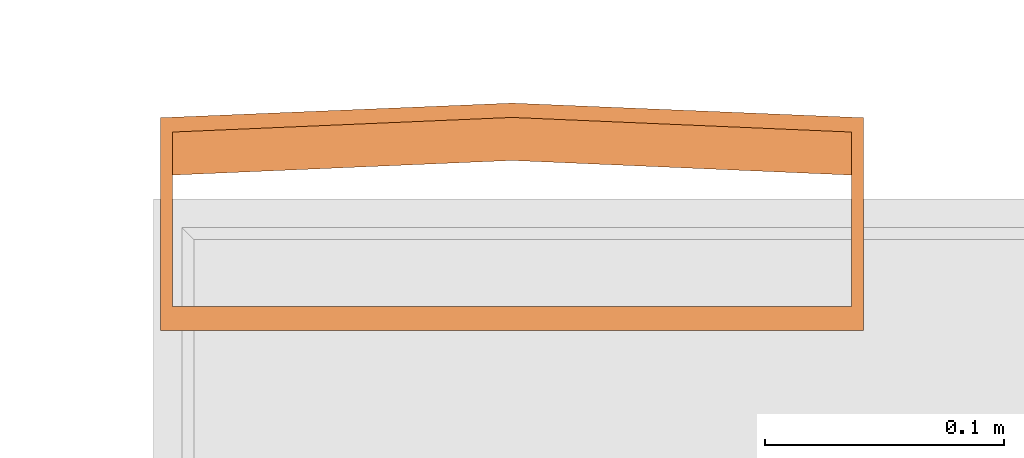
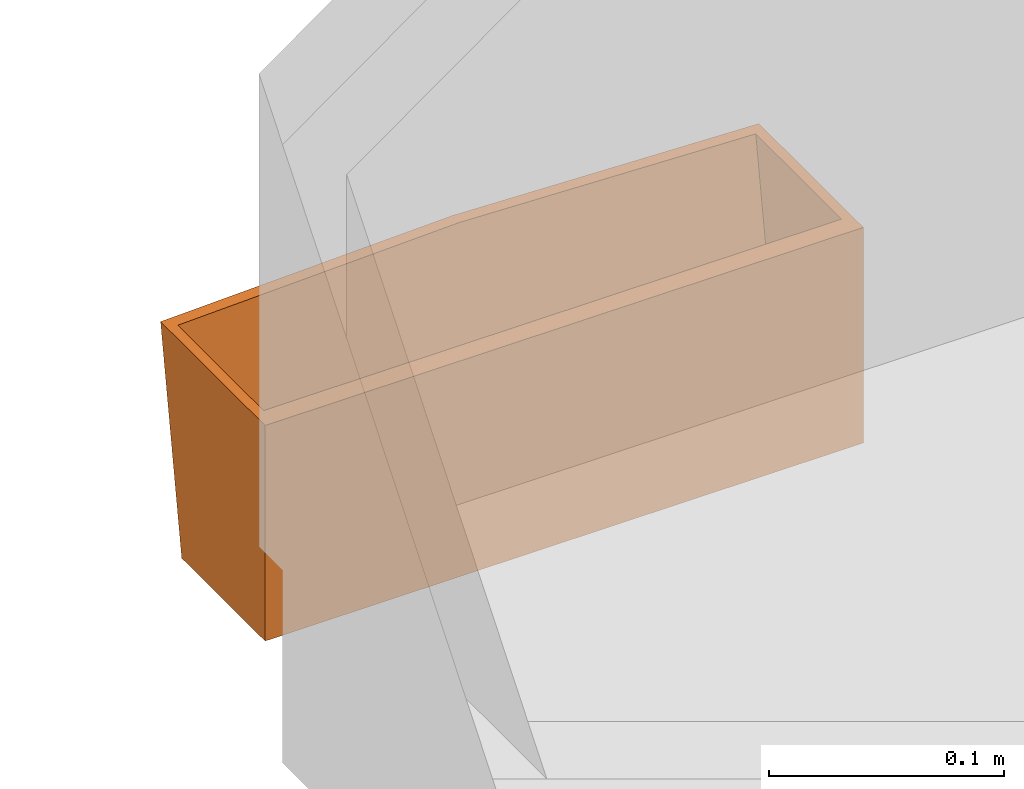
# One storey, part 32 of 32: 1 proxy.
"""IFC2X3 building model written with IfcOpenShell, lengths in metres."""

from ifc_helpers import new_model, entity, si_unit, converted_unit, derived_unit, direction, frame, origin, place, context, subcontext, project, spatial, face_set, surface_model, source, transform, mapped, material, type_object, type_shapes, element, save


model = new_model("IFC2X3")

# Units and contexts
model_context = context("Model", 3, precision=1e-05, world=origin(), true_north=direction((6.12303176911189e-17, 1.0)))
body_context = subcontext(model_context, "Body", "Model", "MODEL_VIEW")
ifc_project = project(units=[si_unit("LENGTHUNIT", "METRE"), si_unit("AREAUNIT", "SQUARE_METRE"), si_unit("VOLUMEUNIT", "CUBIC_METRE"), converted_unit("PLANEANGLEUNIT", "DEGREE", entity("IfcRatioMeasure", 0.0174532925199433), si_unit("PLANEANGLEUNIT", "RADIAN"), dimensions=[0, 0, 0, 0, 0, 0, 0]), si_unit("MASSUNIT", "GRAM", prefix="KILO"), derived_unit("MASSDENSITYUNIT", [(si_unit("MASSUNIT", "GRAM", prefix="KILO"), 1), (si_unit("LENGTHUNIT", "METRE"), -3)]), derived_unit("MOMENTOFINERTIAUNIT", [(si_unit("LENGTHUNIT", "METRE"), 4)]), si_unit("TIMEUNIT", "SECOND"), si_unit("FREQUENCYUNIT", "HERTZ"), si_unit("THERMODYNAMICTEMPERATUREUNIT", "DEGREE_CELSIUS"), derived_unit("THERMALTRANSMITTANCEUNIT", [(si_unit("MASSUNIT", "GRAM", prefix="KILO"), 1), (si_unit("THERMODYNAMICTEMPERATUREUNIT", "KELVIN"), -1), (si_unit("TIMEUNIT", "SECOND"), -3)]), derived_unit("VOLUMETRICFLOWRATEUNIT", [(si_unit("LENGTHUNIT", "METRE"), 3), (si_unit("TIMEUNIT", "SECOND"), -1)]), si_unit("ELECTRICCURRENTUNIT", "AMPERE"), si_unit("ELECTRICVOLTAGEUNIT", "VOLT"), si_unit("POWERUNIT", "WATT"), si_unit("FORCEUNIT", "NEWTON", prefix="KILO"), si_unit("ILLUMINANCEUNIT", "LUX"), si_unit("LUMINOUSFLUXUNIT", "LUMEN"), si_unit("LUMINOUSINTENSITYUNIT", "CANDELA"), derived_unit("USERDEFINED", [(si_unit("MASSUNIT", "GRAM", prefix="KILO"), -1), (si_unit("LENGTHUNIT", "METRE"), -2), (si_unit("TIMEUNIT", "SECOND"), 3), (si_unit("LUMINOUSFLUXUNIT", "LUMEN"), 1)]), derived_unit("LINEARVELOCITYUNIT", [(si_unit("LENGTHUNIT", "METRE"), 1), (si_unit("TIMEUNIT", "SECOND"), -1)]), si_unit("PRESSUREUNIT", "PASCAL"), derived_unit("USERDEFINED", [(si_unit("LENGTHUNIT", "METRE"), -2), (si_unit("MASSUNIT", "GRAM", prefix="KILO"), 1), (si_unit("TIMEUNIT", "SECOND"), -2)]), derived_unit("LINEARFORCEUNIT", [(si_unit("MASSUNIT", "GRAM", prefix="KILO"), 1), (si_unit("LENGTHUNIT", "METRE"), 1), (si_unit("TIMEUNIT", "SECOND"), -2), (si_unit("LENGTHUNIT", "METRE"), -1)]), derived_unit("PLANARFORCEUNIT", [(si_unit("MASSUNIT", "GRAM", prefix="KILO"), 1), (si_unit("LENGTHUNIT", "METRE"), 1), (si_unit("TIMEUNIT", "SECOND"), -2), (si_unit("LENGTHUNIT", "METRE"), -2)])], contexts=[model_context])

# Site, building, storey
site_placement = place(None, origin())
site = spatial("IfcSite", under=ifc_project, at=site_placement, Name="Default", CompositionType="ELEMENT")
building_placement = place(site_placement, origin())
building = spatial("IfcBuilding", under=site, at=building_placement, CompositionType="ELEMENT")
storey_placement = place(building_placement, origin())
storey = spatial("IfcBuildingStorey", under=building, at=storey_placement, Name="00 EG", CompositionType="ELEMENT", Elevation=0.0)

# Proxy
ifc_material = material(Name="dh_Weiß")
building_element_proxy_type = type_object("IfcBuildingElementProxyType", Name="dh_Trichterbecken:Trichterbecken-SI", PredefinedType="NOTDEFINED", material=ifc_material)
shared_shape = source(origin(), body_context, "Body", "SurfaceModel", [
    surface_model("IfcFaceBasedSurfaceModel", [(0.00159527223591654, 0.00770363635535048, 0.113595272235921), (0.00159527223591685, 0.0967036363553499, 0.11359527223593), (0.295595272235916, 0.0967036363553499, 0.11359527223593), (0.295595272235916, 0.0077036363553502, 0.11359527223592), (0.148595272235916, 0.001595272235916, 0.11359527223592), (0.290595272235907, 0.0867036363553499, 0.11359527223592), (0.00659527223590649, 0.0867036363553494, 0.113595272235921), (0.00659527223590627, 0.0137036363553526, 0.113595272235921), (0.148595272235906, 0.00758737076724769, 0.11359527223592), (0.290595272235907, 0.0137036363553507, 0.11359527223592), (0.295595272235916, 0.0257036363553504, 0.00159527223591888), (0.148595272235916, 0.0195952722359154, 0.00159527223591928), (0.001595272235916, 0.0257036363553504, 0.00159527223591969), (0.00159527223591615, 0.0967036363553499, 0.0015952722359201), (0.0515952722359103, 0.0967036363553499, 0.0015952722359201), (0.295595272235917, 0.0967036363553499, 0.0015952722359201), (0.00659527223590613, 0.0867036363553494, 0.00159527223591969), (0.00659527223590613, 0.0317036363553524, 0.00159527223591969), (0.148595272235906, 0.0255873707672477, 0.00159527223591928), (0.290595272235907, 0.0317036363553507, 0.00159527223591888), (0.290595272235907, 0.0867036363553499, 0.00159527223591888), (0.0515952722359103, 0.0867036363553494, 0.00159527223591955), (0.0750952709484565, 0.0046494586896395, 0.113595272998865), (0.0750952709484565, 0.0226494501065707, 0.00159527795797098), (0.19759526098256, 0.0216313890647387, 0.00159527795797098), (0.222095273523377, 0.0046494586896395, 0.113595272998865), (0.219595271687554, 0.0106455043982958, 0.113595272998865), (0.219595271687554, 0.0286455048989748, 0.00159527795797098), (0.0775952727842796, 0.0106455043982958, 0.113595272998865), (0.101261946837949, 0.0276261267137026, 0.00159527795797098), (0.055477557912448, 0.0867036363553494, 0.00210638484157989), (0.0590952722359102, 0.0867036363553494, 0.00360489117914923), (0.0622018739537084, 0.0867036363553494, 0.00598867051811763), (0.0645856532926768, 0.0867036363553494, 0.00909527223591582), (0.0660841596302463, 0.0867036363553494, 0.012712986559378), (0.0665952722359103, 0.0867036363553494, 0.016595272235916), (0.0660841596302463, 0.0867036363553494, 0.0204775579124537), (0.0645856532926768, 0.0867036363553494, 0.0240952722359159), (0.0622018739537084, 0.0867036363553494, 0.0272018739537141), (0.0590952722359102, 0.0867036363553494, 0.0295856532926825), (0.055477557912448, 0.0867036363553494, 0.0310841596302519), (0.0515952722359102, 0.0867036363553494, 0.0315952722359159), (0.0477129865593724, 0.0867036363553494, 0.0310841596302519), (0.0440952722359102, 0.0867036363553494, 0.0295856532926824), (0.040988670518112, 0.0867036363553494, 0.027201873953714), (0.0386048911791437, 0.0867036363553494, 0.0240952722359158), (0.0371063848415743, 0.0867036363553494, 0.0204775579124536), (0.0365952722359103, 0.0867036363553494, 0.0165952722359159), (0.0371063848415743, 0.0867036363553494, 0.0127129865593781), (0.0386048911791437, 0.0867036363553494, 0.00909527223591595), (0.0409886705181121, 0.0867036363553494, 0.00598867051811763), (0.0440952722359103, 0.0867036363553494, 0.00360489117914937), (0.0477129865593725, 0.0867036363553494, 0.00210638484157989), (0.0515952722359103, 0.0867036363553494, 0.00159527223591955), (0.055477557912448, 0.0967036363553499, 0.00210638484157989), (0.0590952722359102, 0.0967036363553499, 0.00360489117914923), (0.0622018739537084, 0.0967036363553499, 0.00598867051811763), (0.0645856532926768, 0.0967036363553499, 0.00909527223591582), (0.0660841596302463, 0.0967036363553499, 0.012712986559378), (0.0665952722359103, 0.0967036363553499, 0.0165952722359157), (0.0660841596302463, 0.0967036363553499, 0.0204775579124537), (0.0645856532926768, 0.0967036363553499, 0.0240952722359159), (0.0622018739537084, 0.0967036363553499, 0.0272018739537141), (0.0590952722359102, 0.0967036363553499, 0.0295856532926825), (0.055477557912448, 0.0967036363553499, 0.0310841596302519), (0.0515952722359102, 0.0967036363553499, 0.0315952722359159), (0.0477129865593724, 0.0967036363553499, 0.0310841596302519), (0.0440952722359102, 0.0967036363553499, 0.0295856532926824), (0.040988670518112, 0.0967036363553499, 0.027201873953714), (0.0386048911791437, 0.0967036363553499, 0.0240952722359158), (0.0371063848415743, 0.0967036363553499, 0.0204775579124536), (0.0365952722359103, 0.0967036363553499, 0.0165952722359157), (0.0371063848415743, 0.0967036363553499, 0.012712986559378), (0.0386048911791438, 0.0967036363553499, 0.00909527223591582), (0.0409886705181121, 0.0967036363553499, 0.00598867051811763), (0.0440952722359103, 0.0967036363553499, 0.00360489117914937), (0.0477129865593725, 0.0967036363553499, 0.00210638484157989), (0.0515952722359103, 0.0967036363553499, 0.0015952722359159)], [face_set([[[0, 1, 2, 3, 4], [5, 6, 7, 8, 9]], [[10, 11, 12, 13, 14, 15], [16, 17, 18, 19, 20, 21]], [[12, 22, 0]], [[23, 4, 22]], [[4, 23, 11]], [[4, 24, 25]], [[12, 23, 22]], [[10, 3, 25]], [[10, 25, 24]], [[24, 4, 11]], [[3, 10, 15, 2]], [[9, 19, 20, 5]], [[9, 26, 19]], [[18, 27, 26, 8]], [[28, 29, 8]], [[26, 27, 19]], [[28, 7, 17]], [[29, 28, 17]], [[18, 8, 29]], [[6, 7, 17, 16]], [[12, 13, 1, 0]], [[5, 20, 21, 30, 31, 32, 33, 34, 35, 36, 37, 38, 39, 40, 41, 42, 43, 44, 45, 46, 47, 48, 49, 50, 51, 52, 53, 16, 6]], [[2, 15, 14, 54, 55, 56, 57, 58, 59, 60, 61, 62, 63, 64, 65, 66, 67, 68, 69, 70, 71, 72, 73, 74, 75, 76, 77, 13, 1]], [[48, 72, 73, 49]], [[47, 71, 72, 48]], [[51, 75, 76, 52]], [[50, 74, 75, 51]], [[49, 73, 74, 50]], [[14, 21, 52, 76]], [[32, 56, 55, 31]], [[30, 54, 55, 31]], [[35, 59, 58, 34]], [[34, 58, 57, 33]], [[33, 57, 56, 32]], [[21, 14, 54, 30]], [[37, 61, 60, 36]], [[36, 60, 59, 35]], [[40, 64, 63, 39]], [[39, 63, 62, 38]], [[38, 62, 61, 37]], [[64, 40, 41, 65]], [[43, 67, 68, 44]], [[42, 66, 67, 43]], [[46, 70, 71, 47]], [[45, 69, 70, 46]], [[44, 68, 69, 45]], [[42, 66, 65, 41]]])]),
])
type_shapes(building_element_proxy_type, [shared_shape])
proxy_placement = place(storey_placement, frame((11.0485952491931, 11.0917036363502, 0.048404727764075), z_axis=(0.0, 0.0, 1.0), x_axis=(-1.0, 0.0, 0.0)))
element("IfcBuildingElementProxy", 1, at=proxy_placement, inside=storey, type_object=building_element_proxy_type, material=ifc_material, Name="dh_Trichterbecken:Trichterbecken-SI", ObjectType="dh_Trichterbecken:Trichterbecken-SI", context=body_context, shape_type="MappedRepresentation", body=[
    mapped(shared_shape, transform((0.0, 0.0, 0.0), scale=1.0)),
])

save(model, "model.ifc")
